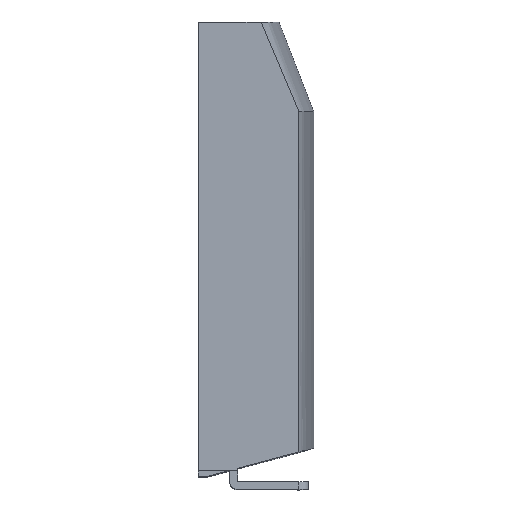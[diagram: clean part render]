
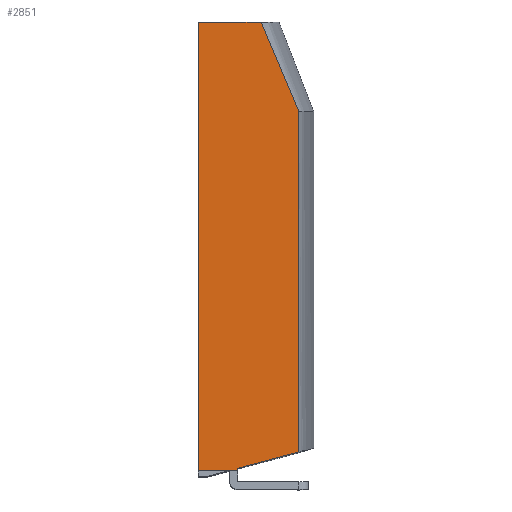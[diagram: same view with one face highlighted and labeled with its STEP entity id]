
A CAD part, top view. The second image highlights one B-rep face of the part: STEP entity #2851.
In plain terms, the highlighted planar face has unit normal (0, 0, 1).
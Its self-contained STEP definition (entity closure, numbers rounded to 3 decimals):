
#275 = EDGE_LOOP ( 'NONE', ( #3494, #3495, #3496, #3497, #3498, #3499, #3500 ) ) ;
#935 = EDGE_CURVE ( 'NONE', #1920, #1936, #3260, .T. ) ;
#936 = EDGE_CURVE ( 'NONE', #1927, #1920, #3253, .T. ) ;
#1420 = CARTESIAN_POINT ( 'NONE',  ( 12.5, -5.302, 60. ) ) ;
#1421 = CARTESIAN_POINT ( 'NONE',  ( 32.078, 108.49, 60. ) ) ;
#1423 = CARTESIAN_POINT ( 'NONE',  ( 0., -6.039, 60. ) ) ;
#1427 = CARTESIAN_POINT ( 'NONE',  ( 32.078, -0.056, 60. ) ) ;
#1436 = CARTESIAN_POINT ( 'NONE',  ( 12.5, -6.039, 60. ) ) ;
#1466 = CARTESIAN_POINT ( 'NONE',  ( 20.046, 137., 60. ) ) ;
#1468 = CARTESIAN_POINT ( 'NONE',  ( 0., 137., 60. ) ) ;
#1608 = CARTESIAN_POINT ( 'NONE',  ( 28.067, 117.993, 60. ) ) ;
#1617 = LINE ( 'NONE', #1619, #3806 ) ;
#1618 = CARTESIAN_POINT ( 'NONE',  ( 32.078, 108.49, 60. ) ) ;
#1619 = CARTESIAN_POINT ( 'NONE',  ( 0., -6.039, 60. ) ) ;
#1620 = DIRECTION ( 'NONE',  ( 1., 0., 0. ) ) ;
#1623 = LINE ( 'NONE', #1624, #3808 ) ;
#1624 = CARTESIAN_POINT ( 'NONE',  ( 32.078, -64.08, 60. ) ) ;
#1625 = DIRECTION ( 'NONE',  ( 0., 1., 0. ) ) ;
#1627 = CARTESIAN_POINT ( 'NONE',  ( 24.057, 127.497, 60. ) ) ;
#1628 = CARTESIAN_POINT ( 'NONE',  ( 20.046, 137., 60. ) ) ;
#1629 = LINE ( 'NONE', #1631, #3810 ) ;
#1631 = CARTESIAN_POINT ( 'NONE',  ( 0., 137., 60. ) ) ;
#1632 = DIRECTION ( 'NONE',  ( 0., 1., 0. ) ) ;
#1920 = VERTEX_POINT ( 'NONE', #1420 ) ;
#1921 = VERTEX_POINT ( 'NONE', #1421 ) ;
#1923 = VERTEX_POINT ( 'NONE', #1423 ) ;
#1927 = VERTEX_POINT ( 'NONE', #1427 ) ;
#1936 = VERTEX_POINT ( 'NONE', #1436 ) ;
#1966 = VERTEX_POINT ( 'NONE', #1466 ) ;
#1968 = VERTEX_POINT ( 'NONE', #1468 ) ;
#2407 = CARTESIAN_POINT ( 'NONE',  ( 0., 137., 60. ) ) ;
#2415 = FACE_OUTER_BOUND ( 'NONE', #275, .T. ) ;
#2416 = PLANE ( 'NONE',  #3890 ) ;
#2418 = DIRECTION ( 'NONE',  ( 0., 0., -1. ) ) ;
#2419 = DIRECTION ( 'NONE',  ( 0., -1., 0. ) ) ;
#2447 = LINE ( 'NONE', #2448, #3898 ) ;
#2448 = CARTESIAN_POINT ( 'NONE',  ( 0., 137., 60. ) ) ;
#2449 = DIRECTION ( 'NONE',  ( 1., 0., 0. ) ) ;
#2767 = EDGE_CURVE ( 'NONE', #1923, #1936, #1617, .T. ) ;
#2769 = EDGE_CURVE ( 'NONE', #1927, #1921, #1623, .T. ) ;
#2770 = EDGE_CURVE ( 'NONE', #1921, #1966, #3975, .T. ) ;
#2771 = EDGE_CURVE ( 'NONE', #1923, #1968, #1629, .T. ) ;
#2851 = ADVANCED_FACE ( 'NONE', ( #2415 ), #2416, .F. ) ;
#3253 = LINE ( 'NONE', #3263, #4075 ) ;
#3260 = LINE ( 'NONE', #3261, #4074 ) ;
#3261 = CARTESIAN_POINT ( 'NONE',  ( 12.5, -9.5, 60. ) ) ;
#3262 = DIRECTION ( 'NONE',  ( 0., -1., 0. ) ) ;
#3263 = CARTESIAN_POINT ( 'NONE',  ( 12.5, -5.302, 60. ) ) ;
#3264 = DIRECTION ( 'NONE',  ( -0.966, -0.259, 0. ) ) ;
#3494 = ORIENTED_EDGE ( 'NONE', *, *, #2769, .T. ) ;
#3495 = ORIENTED_EDGE ( 'NONE', *, *, #2770, .T. ) ;
#3496 = ORIENTED_EDGE ( 'NONE', *, *, #3939, .F. ) ;
#3497 = ORIENTED_EDGE ( 'NONE', *, *, #2771, .F. ) ;
#3498 = ORIENTED_EDGE ( 'NONE', *, *, #2767, .T. ) ;
#3499 = ORIENTED_EDGE ( 'NONE', *, *, #935, .F. ) ;
#3500 = ORIENTED_EDGE ( 'NONE', *, *, #936, .F. ) ;
#3806 = VECTOR ( 'NONE', #1620, 1000. ) ;
#3808 = VECTOR ( 'NONE', #1625, 1000. ) ;
#3810 = VECTOR ( 'NONE', #1632, 1000. ) ;
#3890 = AXIS2_PLACEMENT_3D ( 'NONE', #2407, #2418, #2419 ) ;
#3898 = VECTOR ( 'NONE', #2449, 1000. ) ;
#3939 = EDGE_CURVE ( 'NONE', #1968, #1966, #2447, .T. ) ;
#3975 = B_SPLINE_CURVE_WITH_KNOTS ( 'NONE', 3,
 ( #1618, #1608, #1627, #1628 ),
 .UNSPECIFIED., .F., .F.,
 ( 4, 4 ),
 ( 0., 1. ),
 .UNSPECIFIED. ) ;
#4074 = VECTOR ( 'NONE', #3262, 1000. ) ;
#4075 = VECTOR ( 'NONE', #3264, 1000. ) ;
